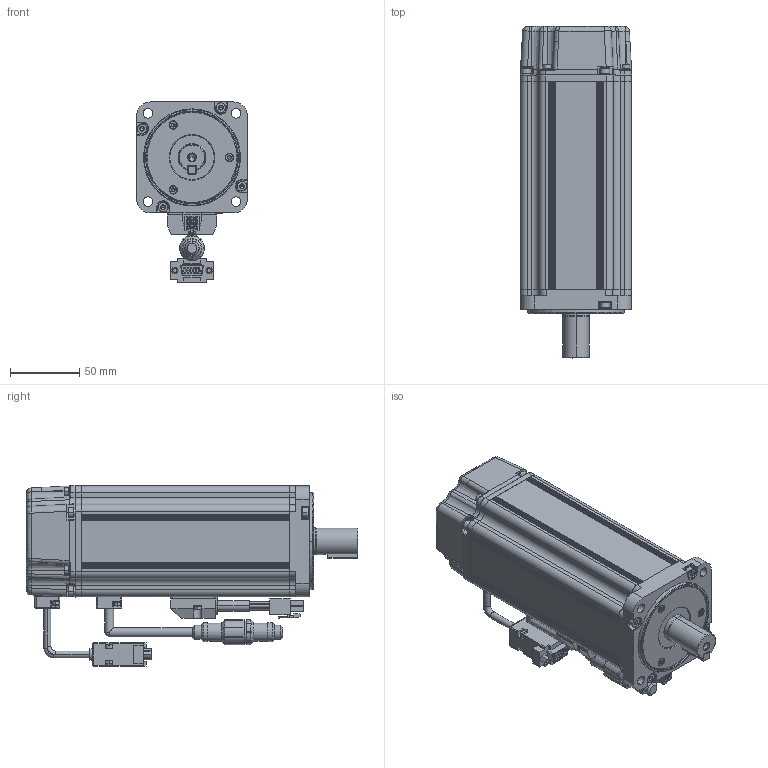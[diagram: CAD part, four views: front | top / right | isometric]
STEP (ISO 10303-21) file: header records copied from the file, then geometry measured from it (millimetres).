
FILE_DESCRIPTION((''),'2;1');
FILE_NAME('SV-ML80-0R7G-1A2_ASM_1_ASM','2018-05-04T',('q'),(''),'PRO/ENGINEER BY PARAMETRIC TECHNOLOGY CORPORATION, 2009440','PRO/ENGINEER BY PARAMETRIC TECHNOLOGY CORPORATION, 2009440','');
FILE_SCHEMA(('CONFIG_CONTROL_DESIGN'));
Products named in the file (26): 80-750W-Z_1; 80-750W-ZZ_ASM_1_ASM; 80-Q_1; GB-T276-6004_1; 80-MFDP_1; 80-ZCYG_1; GB-T9877-20X32X6L_1; GB-T93-3_1; GB-T70-M3X12_1; GB-T93-4_1; GB-T70-M4X20_1; 80-Q_ASM_1_ASM; 80-1A2-JK_2; DYX-CT_1; DYX-YXH_1; XHX_1; GB-T93-2R5_1; GB-T70-M2R5X8_1; 80-750-DZ_ASM_1_ASM; 80-HDG_1; 36023662_1; 80_2_1; XHX-ZJ_1; DYX-ZJ_1; BZX-ZJ_1; SV-ML80-0R7G-1A2_ASM_1_ASM
Assembly tree (62 placements, depth 3):
  SV-ML80-0R7G-1A2_ASM_1_ASM
    80-750W-ZZ_ASM_1_ASM
      80-750W-Z_1
    80-Q_ASM_1_ASM
      80-Q_1
      GB-T276-6004_1
      80-MFDP_1
      80-ZCYG_1
      GB-T9877-20X32X6L_1
      GB-T93-3_1  x3
      GB-T70-M3X12_1  x3
      GB-T93-4_1  x4
      GB-T70-M4X20_1  x4
    80-750-DZ_ASM_1_ASM
      80-1A2-JK_2
      DYX-CT_1
      DYX-YXH_1
      XHX_1
      GB-T93-2R5_1  x4
      GB-T70-M2R5X8_1  x4
    80-HDG_1
    36023662_1
    80_2_1
    XHX_1
    GB-T93-2R5_1  x2
    GB-T70-M2R5X8_1  x2
    XHX-ZJ_1
    DYX-ZJ_1
    GB-T93-3_1  x4
    GB-T70-M3X12_1  x4
    GB-T93-4_1  x4
    GB-T70-M4X20_1  x4
    BZX-ZJ_1
Bounding box: 80.14 x 239.4 x 129.98 mm (x, y, z)
Volume: 427016.1 mm3; surface area: 225231 mm2
Topology: 59 solids, 84 shells, 3150 faces, 7778 edges, 4865 vertices
Faces by surface type: plane 1488, cylinder 928, cone 386, torus 146, bspline 143, sphere 55, extrusion 4
Entity records: 100641 total; most frequent: CARTESIAN_POINT 26465, DIRECTION 12081, ORIENTED_EDGE 11946, EDGE_CURVE 5993, AXIS2_PLACEMENT_3D 4395, VERTEX_POINT 3881, VECTOR 3291, LINE 3287
